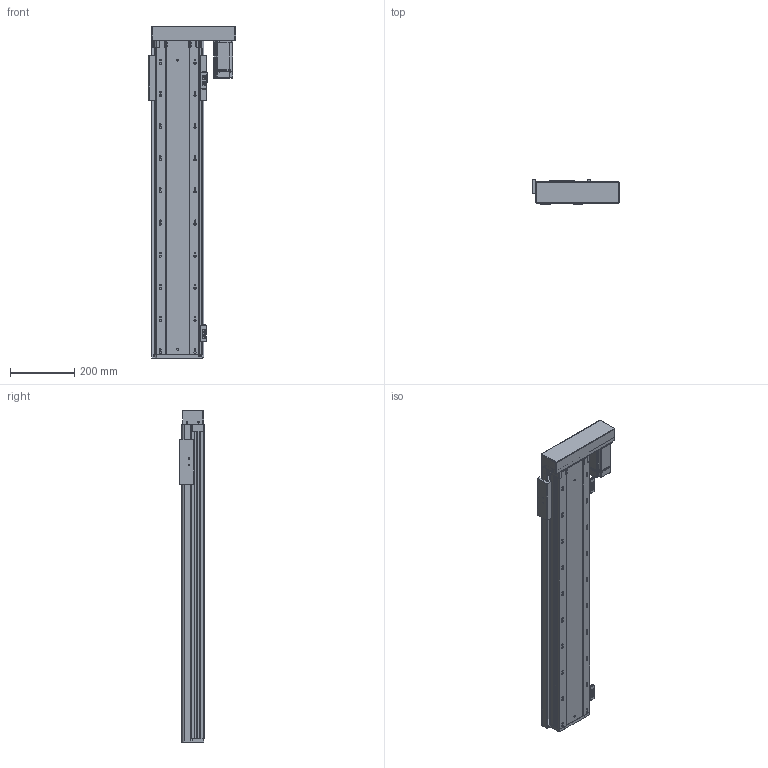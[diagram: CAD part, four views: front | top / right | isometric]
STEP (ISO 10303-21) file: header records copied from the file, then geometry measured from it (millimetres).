
FILE_DESCRIPTION (( 'STEP AP203' ), '1' );
FILE_NAME ('RY140FB-L2010-300-RK.SLDASM_750.step', '2021-02-23T02:41:10', ( '盈信电脑' ), ( '东莞市道滘镇水果街19号' ), 'SwSTEP 2.0', 'SolidWorks 2012', '' );
FILE_SCHEMA (( 'CONFIG_CONTROL_DESIGN' ));
Products named in the file (17): RY140FB-L2010-300-RK.SLDASM_750; RY140-674嫖萇耀輸; RY140FB-左右折电机安装板; RY140FB-覜茼え; RY140FB-酘衵殏萇儂欶; RY140FB-300蛌殏奻裔啣-RK_750; 覜茼ん674; RY140直线电机感应器674光电安装座; 侂狟400W侜督萇儂; 15; RY140FB-20佪裝臏賑輸; RY140FB-转折电机端支撑座(7002); 滅袉蝶18-24; 滅袉蝶18-10; RY140FB-綴裔啣; RY140FB-300蛌殏倰第菁釱-RK_750
Assembly tree (20 placements, depth 3):
  RY140FB-L2010-300-RK.SLDASM_750
    RY140FB-300蛌殏倰第菁釱-RK_750
    RY140FB-綴裔啣
    滅袉蝶18-24  x2
    滅袉蝶18-10
    RY140FB-转折电机端支撑座(7002)
    侂狟400W侜督萇儂
      15
    RY140FB-20佪裝臏賑輸
    RY140FB-300蛌殏奻裔啣-RK_750
    RY140-674嫖萇耀輸
      覜茼ん674
      RY140直线电机感应器674光电安装座
    RY140-674嫖萇耀輸
      覜茼ん674  x2
      RY140直线电机感应器674光电安装座
    RY140FB-覜茼え
    RY140FB-左右折电机安装板
    RY140FB-酘衵殏萇儂欶
Bounding box: 271.3 x 75 x 1033.2 mm (x, y, z)
Volume: 4139768.7 mm3; surface area: 1376469.3 mm2
Topology: 17 solids, 17 shells, 1842 faces, 5071 edges, 3225 vertices
Faces by surface type: cylinder 913, plane 727, cone 174, bspline 28
Entity records: 55945 total; most frequent: CARTESIAN_POINT 11401, DIRECTION 9036, ORIENTED_EDGE 8842, EDGE_CURVE 4421, AXIS2_PLACEMENT_3D 3276, VERTEX_POINT 2893, LINE 2484, VECTOR 2484
